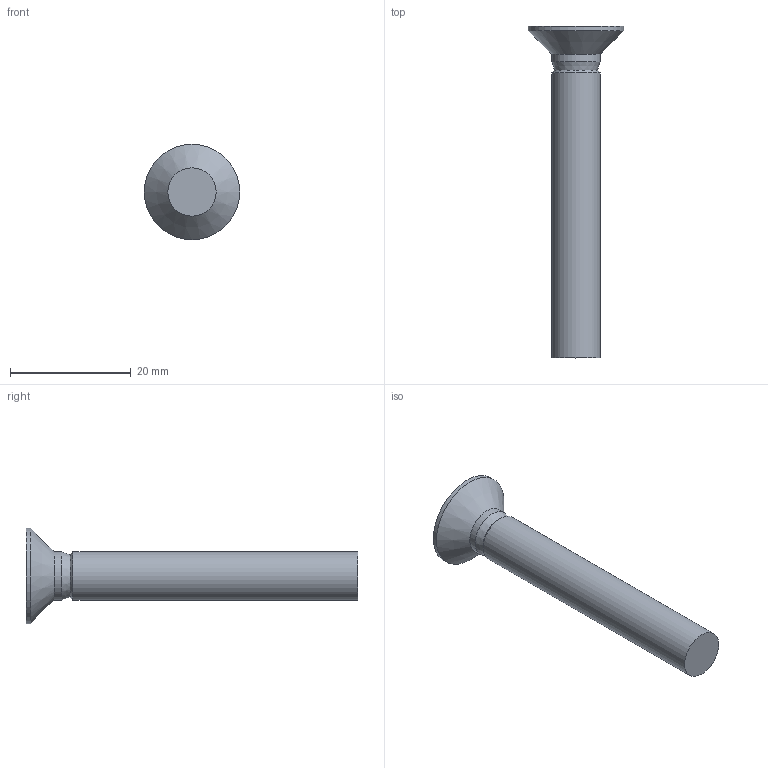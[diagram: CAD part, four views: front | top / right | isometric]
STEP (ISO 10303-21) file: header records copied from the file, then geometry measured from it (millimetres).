
FILE_DESCRIPTION(/* description */ (''),/* implementation_level */ '2;1');
FILE_NAME(/* name */ 'C:\Users\unitec\Documents\Inventor\HP\ボルト\JIS B 1111 十字穴付き皿小ねじ\IPT\CHWCSS-M8\CHWCSS-M8-55.stp',/* time_stamp */ '2016-12-24T16:30:19+09:00',/* author */ ('unitec'),/* organization */ (''),/* preprocessor_version */ 'ST-DEVELOPER v15.2',/* originating_system */ 'Autodesk Inventor 2014',/* authorisation */ '');
FILE_SCHEMA (('AUTOMOTIVE_DESIGN { 1 0 10303 214 3 1 1 }'));
Length unit declared in the file: millimetre
Products named in the file (1): CHWCSS-M8-55
Bounding box: 15.8 x 55 x 15.8 mm (x, y, z)
Volume: 3057.3 mm3; surface area: 1810.9 mm2
Topology: 1 solids, 1 shells, 33 faces, 77 edges, 43 vertices
Faces by surface type: plane 23, bspline 4, cylinder 3, cone 3
Full cylindrical faces by diameter (mm): 8 x2, 15.8 x1
Entity records: 1057 total; most frequent: CARTESIAN_POINT 400, ORIENTED_EDGE 134, DIRECTION 106, EDGE_CURVE 67, VERTEX_POINT 43, EDGE_LOOP 40, AXIS2_PLACEMENT_3D 37, ADVANCED_FACE 33
